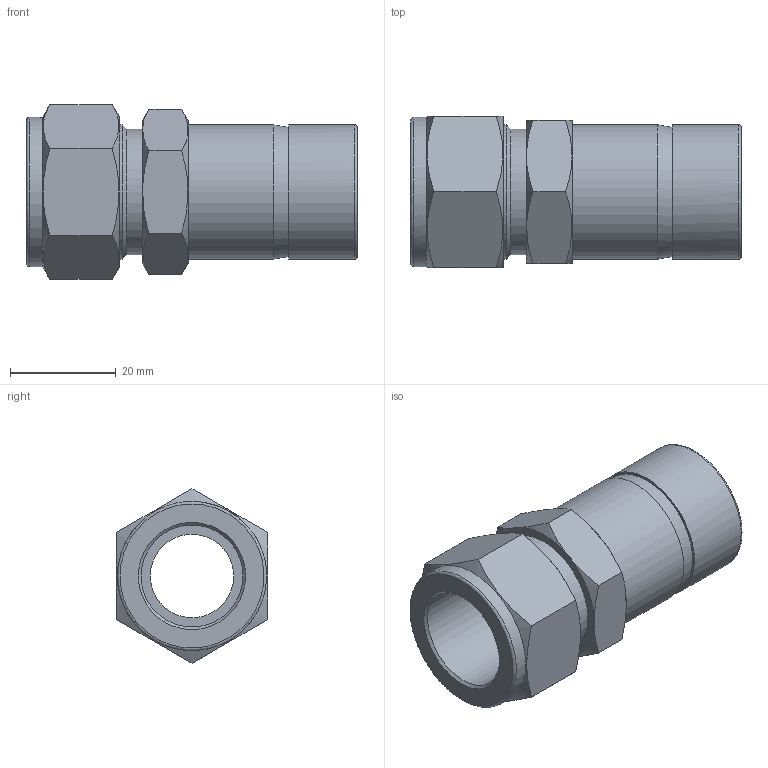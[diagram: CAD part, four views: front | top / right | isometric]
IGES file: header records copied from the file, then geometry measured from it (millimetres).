
Global section: file name: SR-12-16; native system: Autodesk Inventor 2016; preprocessor: unknown; author: DESIGNPC2; date: 20151113.084348; units: millimetre
Bounding box: 62.49 x 28.58 x 33 mm (x, y, z)
Volume: 17045 mm3; surface area: 10357.6 mm2
Topology: 1 solids, 1 shells, 45 faces, 128 edges, 90 vertices
Faces by surface type: bspline 45
